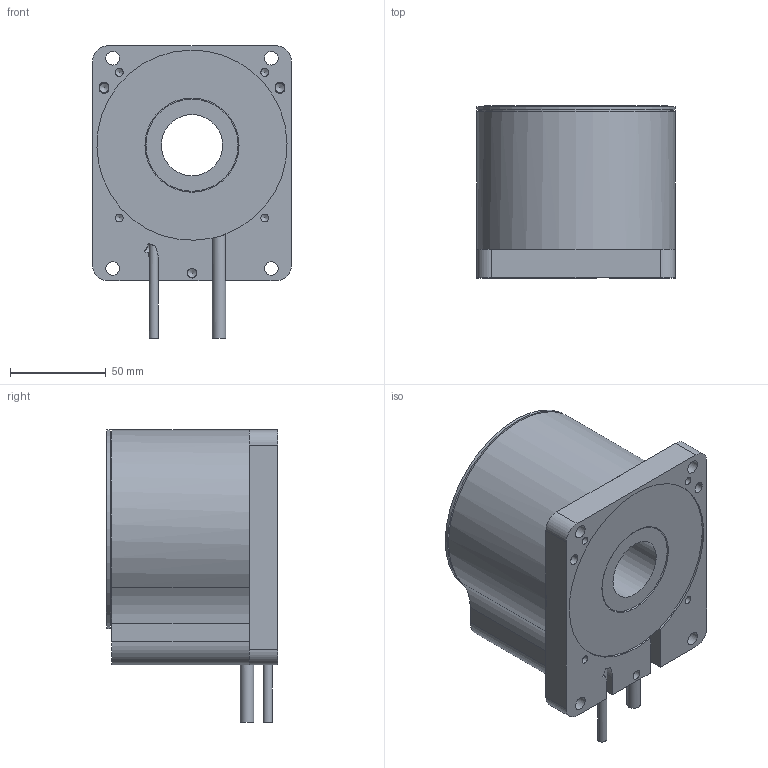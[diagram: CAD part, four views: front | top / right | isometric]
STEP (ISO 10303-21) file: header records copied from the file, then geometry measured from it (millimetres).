
FILE_DESCRIPTION(/* description */ (''),/* implementation_level */ '2;1');
FILE_NAME(/* name */ 'C:\CAD_Work\Designs\EMN\EMN-Unrestricted\Irwin\Dummy Files\mPR\mPR100.stp',/* time_stamp */ '2017-02-21T12:40:58-05:00',/* author */ ('fk20128'),/* organization */ (''),/* preprocessor_version */ 'ST-DEVELOPER v16.1',/* originating_system */ 'Autodesk Inventor 2016',/* authorisation */ '');
FILE_SCHEMA (('AUTOMOTIVE_DESIGN { 1 0 10303 214 3 1 1 }'));
Length unit declared in the file: millimetre
Products named in the file (3): mPR100 - Base; mPR100 - Top; mPR100
Assembly tree (2 placements, depth 2):
  mPR100
    mPR100 - Base
    mPR100 - Top
Bounding box: 104 x 90 x 153 mm (x, y, z)
Volume: 982476.9 mm3; surface area: 118705.7 mm2
Topology: 2 solids, 2 shells, 149 faces, 377 edges, 246 vertices
Faces by surface type: cylinder 71, plane 56, cone 21, torus 1
Full cylindrical faces by diameter (mm): 3.242 x12, 4.134 x4, 4.763 x1, 4.8 x5, 5.005 x3, 7.1 x1, 7.137 x4, 32 x1, 48.2 x1, 49.21 x1, 51.841 x1, 52 x1, 61.5 x1, 96 x1, 100 x1, 104 x1
Entity records: 4200 total; most frequent: CARTESIAN_POINT 828, DIRECTION 721, ORIENTED_EDGE 558, AXIS2_PLACEMENT_3D 305, EDGE_CURVE 277, EDGE_LOOP 238, VERTEX_POINT 206, FACE_OUTER_BOUND 149
